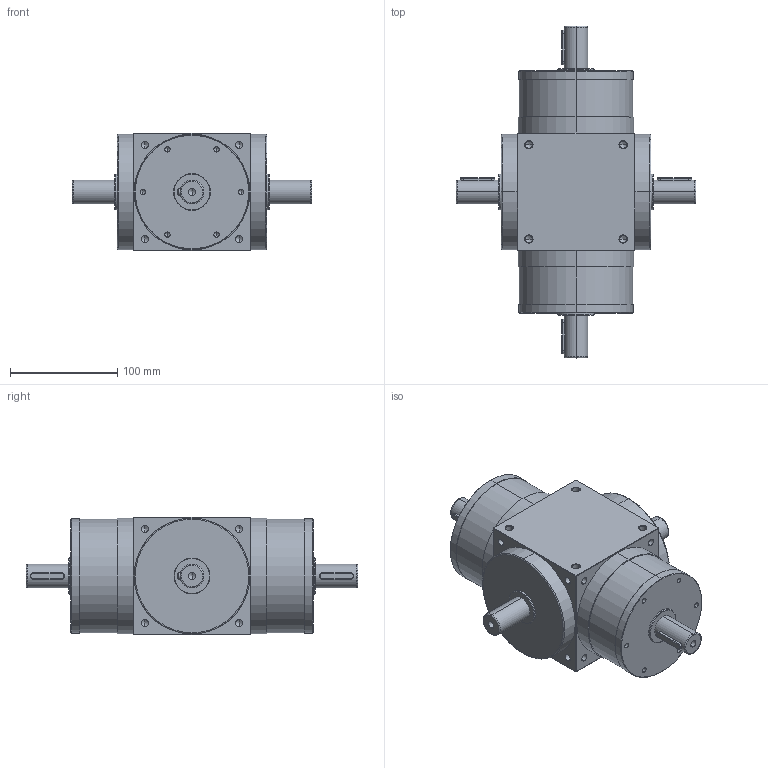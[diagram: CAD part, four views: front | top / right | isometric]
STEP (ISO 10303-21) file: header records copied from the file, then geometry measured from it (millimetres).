
FILE_DESCRIPTION (( 'STEP AP214' ), '1' );
FILE_NAME ('AT110-L-001.STEP', '2020-10-09T01:45:24', ( '微软用户' ), ( '微软中国' ), 'SwSTEP 2.0', 'SolidWorks 2014', '' );
FILE_SCHEMA (( 'AUTOMOTIVE_DESIGN' ));
Length unit declared in the file: millimetre
Products named in the file (2): AT110-L-001
Bounding box: 224 x 310 x 110 mm (x, y, z)
Volume: 2690895.8 mm3; surface area: 163832.1 mm2
Topology: 2 solids, 2 shells, 352 faces, 907 edges, 506 vertices
Faces by surface type: cylinder 168, cone 109, plane 63, bspline 12
Entity records: 13674 total; most frequent: CARTESIAN_POINT 2631, ORIENTED_EDGE 1654, DIRECTION 1613, EDGE_CURVE 827, AXIS2_PLACEMENT_3D 624, VERTEX_POINT 506, EDGE_LOOP 411, LINE 365
